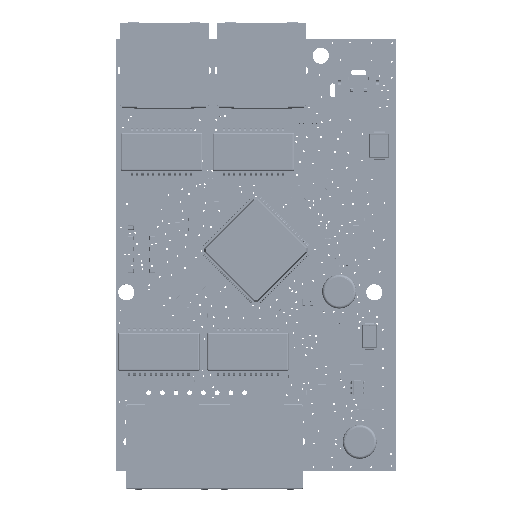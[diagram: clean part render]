
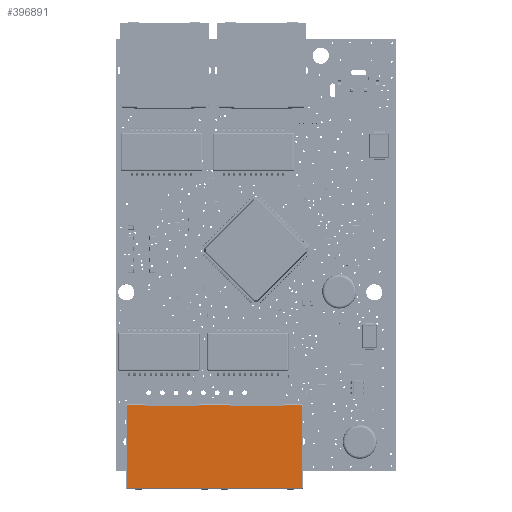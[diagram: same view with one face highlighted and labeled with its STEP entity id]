
A CAD part, top view. The second image highlights one B-rep face of the part: STEP entity #396891.
In plain terms, the highlighted planar face has unit normal (0, 0, 1).
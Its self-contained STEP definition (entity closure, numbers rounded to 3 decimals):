
#396689 = VERTEX_POINT('',#396690);
#396690 = CARTESIAN_POINT('',(-16.125,7.604,
    13.28));
#396697 = EDGE_CURVE('',#396698,#396689,#396700,.T.);
#396698 = VERTEX_POINT('',#396699);
#396699 = CARTESIAN_POINT('',(-16.125,-7.746,
    13.28));
#396700 = LINE('',#396701,#396702);
#396701 = CARTESIAN_POINT('',(-16.125,-7.746,
    13.28));
#396702 = VECTOR('',#396703,1.);
#396703 = DIRECTION('',(0.,1.,0.));
#396756 = EDGE_CURVE('',#396757,#396759,#396761,.T.);
#396757 = VERTEX_POINT('',#396758);
#396758 = CARTESIAN_POINT('',(12.9,7.604,
    13.28));
#396759 = VERTEX_POINT('',#396760);
#396760 = CARTESIAN_POINT('',(16.125,7.604,
    13.28));
#396761 = LINE('',#396762,#396763);
#396762 = CARTESIAN_POINT('',(12.9,7.604,
    13.28));
#396763 = VECTOR('',#396764,1.);
#396764 = DIRECTION('',(1.,0.,0.));
#396791 = EDGE_CURVE('',#396689,#396792,#396794,.T.);
#396792 = VERTEX_POINT('',#396793);
#396793 = CARTESIAN_POINT('',(-12.85,7.604,
    13.28));
#396794 = LINE('',#396795,#396796);
#396795 = CARTESIAN_POINT('',(-16.125,7.604,
    13.28));
#396796 = VECTOR('',#396797,1.);
#396797 = DIRECTION('',(1.,0.,0.));
#396814 = EDGE_CURVE('',#396815,#396817,#396819,.T.);
#396815 = VERTEX_POINT('',#396816);
#396816 = CARTESIAN_POINT('',(-2.85,7.604,
    13.28));
#396817 = VERTEX_POINT('',#396818);
#396818 = CARTESIAN_POINT('',(2.9,7.604,
    13.28));
#396819 = LINE('',#396820,#396821);
#396820 = CARTESIAN_POINT('',(-2.85,7.604,
    13.28));
#396821 = VECTOR('',#396822,1.);
#396822 = DIRECTION('',(1.,0.,0.));
#396849 = EDGE_CURVE('',#396757,#396850,#396852,.T.);
#396850 = VERTEX_POINT('',#396851);
#396851 = CARTESIAN_POINT('',(12.9,7.454,
    13.28));
#396852 = LINE('',#396853,#396854);
#396853 = CARTESIAN_POINT('',(12.9,7.604,
    13.28));
#396854 = VECTOR('',#396855,1.);
#396855 = DIRECTION('',(0.,-1.,0.));
#396891 = ADVANCED_FACE('',(#396892),#396949,.T.);
#396892 = FACE_BOUND('',#396893,.F.);
#396893 = EDGE_LOOP('',(#396894,#396902,#396910,#396916,#396917,#396925,
    #396931,#396932,#396933,#396941,#396947,#396948));
#396894 = ORIENTED_EDGE('',*,*,#396895,.T.);
#396895 = EDGE_CURVE('',#396792,#396896,#396898,.T.);
#396896 = VERTEX_POINT('',#396897);
#396897 = CARTESIAN_POINT('',(-12.85,7.454,
    13.28));
#396898 = LINE('',#396899,#396900);
#396899 = CARTESIAN_POINT('',(-12.85,7.604,
    13.28));
#396900 = VECTOR('',#396901,1.);
#396901 = DIRECTION('',(0.,-1.,0.));
#396902 = ORIENTED_EDGE('',*,*,#396903,.T.);
#396903 = EDGE_CURVE('',#396896,#396904,#396906,.T.);
#396904 = VERTEX_POINT('',#396905);
#396905 = CARTESIAN_POINT('',(-2.85,7.454,
    13.28));
#396906 = LINE('',#396907,#396908);
#396907 = CARTESIAN_POINT('',(-12.85,7.454,
    13.28));
#396908 = VECTOR('',#396909,1.);
#396909 = DIRECTION('',(1.,0.,0.));
#396910 = ORIENTED_EDGE('',*,*,#396911,.F.);
#396911 = EDGE_CURVE('',#396815,#396904,#396912,.T.);
#396912 = LINE('',#396913,#396914);
#396913 = CARTESIAN_POINT('',(-2.85,7.604,
    13.28));
#396914 = VECTOR('',#396915,1.);
#396915 = DIRECTION('',(0.,-1.,0.));
#396916 = ORIENTED_EDGE('',*,*,#396814,.T.);
#396917 = ORIENTED_EDGE('',*,*,#396918,.T.);
#396918 = EDGE_CURVE('',#396817,#396919,#396921,.T.);
#396919 = VERTEX_POINT('',#396920);
#396920 = CARTESIAN_POINT('',(2.9,7.454,
    13.28));
#396921 = LINE('',#396922,#396923);
#396922 = CARTESIAN_POINT('',(2.9,7.604,
    13.28));
#396923 = VECTOR('',#396924,1.);
#396924 = DIRECTION('',(0.,-1.,0.));
#396925 = ORIENTED_EDGE('',*,*,#396926,.T.);
#396926 = EDGE_CURVE('',#396919,#396850,#396927,.T.);
#396927 = LINE('',#396928,#396929);
#396928 = CARTESIAN_POINT('',(2.9,7.454,
    13.28));
#396929 = VECTOR('',#396930,1.);
#396930 = DIRECTION('',(1.,0.,0.));
#396931 = ORIENTED_EDGE('',*,*,#396849,.F.);
#396932 = ORIENTED_EDGE('',*,*,#396756,.T.);
#396933 = ORIENTED_EDGE('',*,*,#396934,.F.);
#396934 = EDGE_CURVE('',#396935,#396759,#396937,.T.);
#396935 = VERTEX_POINT('',#396936);
#396936 = CARTESIAN_POINT('',(16.125,-7.746,
    13.28));
#396937 = LINE('',#396938,#396939);
#396938 = CARTESIAN_POINT('',(16.125,-7.746,
    13.28));
#396939 = VECTOR('',#396940,1.);
#396940 = DIRECTION('',(0.,1.,0.));
#396941 = ORIENTED_EDGE('',*,*,#396942,.T.);
#396942 = EDGE_CURVE('',#396935,#396698,#396943,.T.);
#396943 = LINE('',#396944,#396945);
#396944 = CARTESIAN_POINT('',(16.125,-7.746,
    13.28));
#396945 = VECTOR('',#396946,1.);
#396946 = DIRECTION('',(-1.,0.,0.));
#396947 = ORIENTED_EDGE('',*,*,#396697,.T.);
#396948 = ORIENTED_EDGE('',*,*,#396791,.T.);
#396949 = PLANE('',#396950);
#396950 = AXIS2_PLACEMENT_3D('',#396951,#396952,#396953);
#396951 = CARTESIAN_POINT('',(-16.125,7.804,
    13.28));
#396952 = DIRECTION('',(0.,0.,1.));
#396953 = DIRECTION('',(1.,0.,0.));
